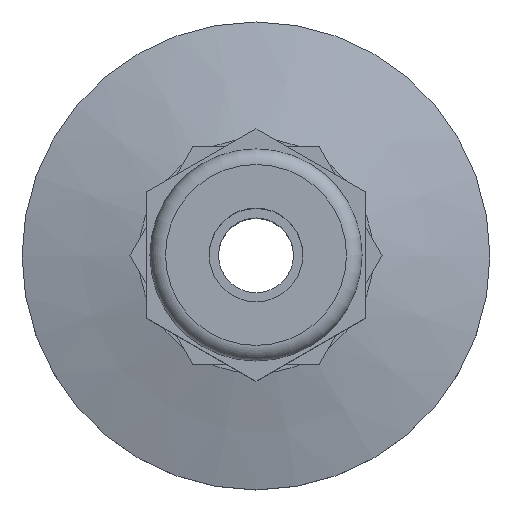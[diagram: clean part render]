
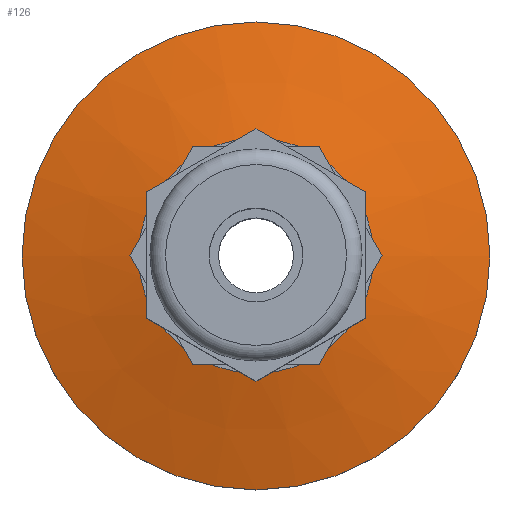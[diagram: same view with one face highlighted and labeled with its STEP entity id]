
A CAD part, top view. The second image highlights one B-rep face of the part: STEP entity #126.
In plain terms, the highlighted conical face has half-angle 75 degrees and reference radius 15 mm.
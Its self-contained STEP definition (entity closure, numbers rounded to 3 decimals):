
#126 = ADVANCED_FACE( '', ( #252, #253 ), #254, .T. );
#252 = FACE_BOUND( '', #382, .T. );
#253 = FACE_OUTER_BOUND( '', #383, .T. );
#254 = CONICAL_SURFACE( '', #384, 15., 1.309 );
#382 = EDGE_LOOP( '', ( #544 ) );
#383 = EDGE_LOOP( '', ( #545 ) );
#384 = AXIS2_PLACEMENT_3D( '', #546, #547, #548 );
#544 = ORIENTED_EDGE( '', *, *, #729, .F. );
#545 = ORIENTED_EDGE( '', *, *, #688, .T. );
#546 = CARTESIAN_POINT( '', ( 0., 0., 3. ) );
#547 = DIRECTION( '', ( 0., 0., -1. ) );
#548 = DIRECTION( '', ( -1., 0., 0. ) );
#688 = EDGE_CURVE( '', #778, #778, #779, .T. );
#729 = EDGE_CURVE( '', #844, #844, #845, .T. );
#778 = VERTEX_POINT( '', #910 );
#779 = CIRCLE( '', #911, 15. );
#844 = VERTEX_POINT( '', #987 );
#845 = CIRCLE( '', #988, 7.536 );
#910 = CARTESIAN_POINT( '', ( 15., 0., 3. ) );
#911 = AXIS2_PLACEMENT_3D( '', #1064, #1065, #1066 );
#987 = CARTESIAN_POINT( '', ( 7.536, 0., 5. ) );
#988 = AXIS2_PLACEMENT_3D( '', #1126, #1127, #1128 );
#1064 = CARTESIAN_POINT( '', ( 0., 0., 3. ) );
#1065 = DIRECTION( '', ( 0., 0., 1. ) );
#1066 = DIRECTION( '', ( 1., 0., 0. ) );
#1126 = CARTESIAN_POINT( '', ( 0., 0., 5. ) );
#1127 = DIRECTION( '', ( 0., 0., 1. ) );
#1128 = DIRECTION( '', ( 1., 0., 0. ) );
